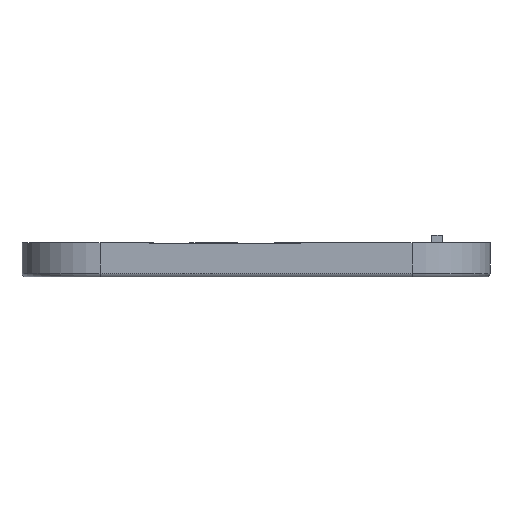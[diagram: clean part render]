
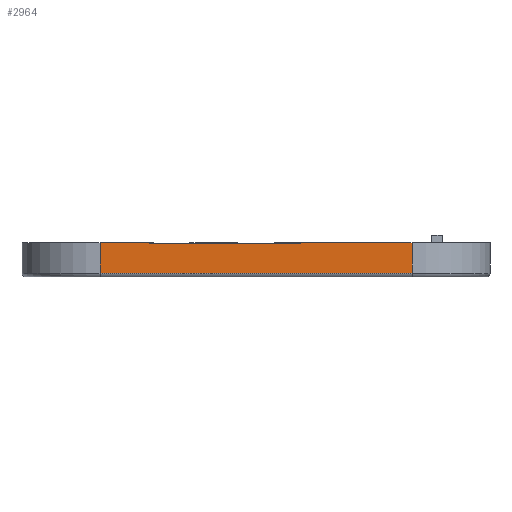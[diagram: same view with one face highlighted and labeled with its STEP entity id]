
A CAD part, left-side view. The second image highlights one B-rep face of the part: STEP entity #2964.
In plain terms, the highlighted planar face has unit normal (-1, 0, 0).
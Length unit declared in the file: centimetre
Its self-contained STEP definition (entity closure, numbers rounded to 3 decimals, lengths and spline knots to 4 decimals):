
#149=PLANE('',#3220);
#309=FACE_OUTER_BOUND('',#484,.T.);
#484=EDGE_LOOP('',(#2761,#2762,#2763,#2764,#2765,#2766,#2767,#2768));
#491=LINE('',#4073,#823);
#495=LINE('',#4094,#827);
#540=LINE('',#4254,#872);
#638=LINE('',#4485,#970);
#661=LINE('',#4551,#993);
#816=LINE('',#4908,#1148);
#823=VECTOR('',#3259,1.);
#827=VECTOR('',#3285,1.);
#872=VECTOR('',#3406,1.);
#970=VECTOR('',#3578,1.);
#993=VECTOR('',#3643,1.);
#1148=VECTOR('',#4034,1.);
#1218=CIRCLE('',#3098,0.48);
#1219=CIRCLE('',#3100,0.48);
#1244=VERTEX_POINT('',#4063);
#1246=VERTEX_POINT('',#4069);
#1253=VERTEX_POINT('',#4092);
#1310=VERTEX_POINT('',#4252);
#1405=VERTEX_POINT('',#4482);
#1406=VERTEX_POINT('',#4484);
#1427=VERTEX_POINT('',#4543);
#1428=VERTEX_POINT('',#4547);
#1528=EDGE_CURVE('',#1244,#1246,#491,.T.);
#1539=EDGE_CURVE('',#1253,#1244,#495,.T.);
#1609=EDGE_CURVE('',#1310,#1253,#540,.T.);
#1725=EDGE_CURVE('',#1405,#1406,#638,.T.);
#1756=EDGE_CURVE('',#1427,#1406,#1218,.T.);
#1758=EDGE_CURVE('',#1310,#1428,#1219,.T.);
#1760=EDGE_CURVE('',#1428,#1427,#661,.T.);
#1931=EDGE_CURVE('',#1405,#1246,#816,.T.);
#2761=ORIENTED_EDGE('',*,*,#1528,.F.);
#2762=ORIENTED_EDGE('',*,*,#1539,.F.);
#2763=ORIENTED_EDGE('',*,*,#1609,.F.);
#2764=ORIENTED_EDGE('',*,*,#1758,.T.);
#2765=ORIENTED_EDGE('',*,*,#1760,.T.);
#2766=ORIENTED_EDGE('',*,*,#1756,.T.);
#2767=ORIENTED_EDGE('',*,*,#1725,.F.);
#2768=ORIENTED_EDGE('',*,*,#1931,.T.);
#2964=ADVANCED_FACE('',(#309),#149,.F.);
#3098=AXIS2_PLACEMENT_3D('',#4544,#3633,#3634);
#3100=AXIS2_PLACEMENT_3D('',#4548,#3638,#3639);
#3220=AXIS2_PLACEMENT_3D('',#4910,#4036,#4037);
#3259=DIRECTION('',(0.,1.,0.));
#3285=DIRECTION('',(0.,0.,-1.));
#3406=DIRECTION('',(0.,-1.,0.));
#3578=DIRECTION('',(0.,-1.,0.));
#3633=DIRECTION('center_axis',(1.,0.,0.));
#3634=DIRECTION('ref_axis',(0.,1.,0.));
#3638=DIRECTION('center_axis',(1.,0.,0.));
#3639=DIRECTION('ref_axis',(0.,1.,0.));
#3643=DIRECTION('',(0.,1.,0.));
#4034=DIRECTION('',(0.,0.,-1.));
#4036=DIRECTION('center_axis',(1.,0.,0.));
#4037=DIRECTION('ref_axis',(0.,0.,-1.));
#4063=CARTESIAN_POINT('',(-3.8,-5.,-2.28));
#4069=CARTESIAN_POINT('',(-3.8,5.,-2.28));
#4073=CARTESIAN_POINT('',(-3.8,0.,-2.28));
#4092=CARTESIAN_POINT('',(-3.8,-5.,-1.3));
#4094=CARTESIAN_POINT('',(-3.8,-5.,-1.85));
#4252=CARTESIAN_POINT('',(-3.8,-1.4818,-1.3));
#4254=CARTESIAN_POINT('',(-3.8,0.,-1.3));
#4482=CARTESIAN_POINT('',(-3.8,5.,-1.3));
#4484=CARTESIAN_POINT('',(-3.8,3.4818,-1.3));
#4485=CARTESIAN_POINT('',(-3.8,0.,-1.3));
#4543=CARTESIAN_POINT('',(-3.8,3.29,-1.34));
#4544=CARTESIAN_POINT('Origin',(-3.8,3.29,-0.86));
#4547=CARTESIAN_POINT('',(-3.8,-1.29,-1.34));
#4548=CARTESIAN_POINT('Origin',(-3.8,-1.29,-0.86));
#4551=CARTESIAN_POINT('',(-3.8,0.5,-1.34));
#4908=CARTESIAN_POINT('',(-3.8,5.,-1.85));
#4910=CARTESIAN_POINT('Origin',(-3.8,0.,-1.85));
